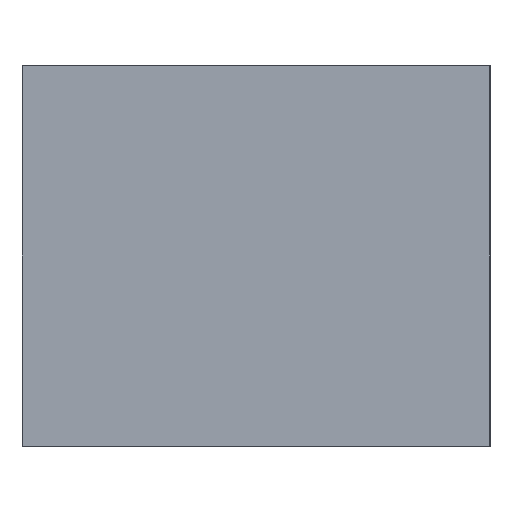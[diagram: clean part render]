
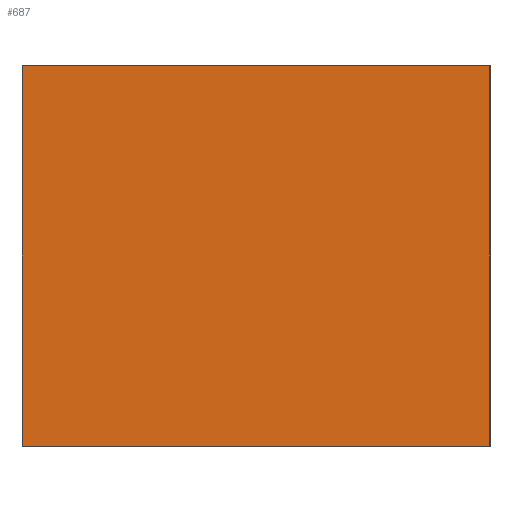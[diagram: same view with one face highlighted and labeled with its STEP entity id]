
A CAD part, left-side view. The second image highlights one B-rep face of the part: STEP entity #687.
In plain terms, the highlighted planar face has unit normal (-1, 0, 0).
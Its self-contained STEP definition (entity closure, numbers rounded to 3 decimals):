
#17=DIRECTION('',(0.,0.,1.));
#18=VECTOR('',#17,35.);
#19=CARTESIAN_POINT('',(-43.5,0.,-17.5));
#20=LINE('',#19,#18);
#134=DIRECTION('',(0.,1.,0.));
#135=VECTOR('',#134,43.);
#136=CARTESIAN_POINT('',(-43.5,0.,17.5));
#137=LINE('',#136,#135);
#138=DIRECTION('',(0.,1.,0.));
#139=VECTOR('',#138,43.);
#140=CARTESIAN_POINT('',(-43.5,0.,-17.5));
#141=LINE('',#140,#139);
#210=DIRECTION('',(0.,0.,1.));
#211=VECTOR('',#210,35.);
#212=CARTESIAN_POINT('',(-43.5,43.,-17.5));
#213=LINE('',#212,#211);
#393=CARTESIAN_POINT('',(-43.5,0.,-17.5));
#394=VERTEX_POINT('',#393);
#395=CARTESIAN_POINT('',(-43.5,0.,17.5));
#396=VERTEX_POINT('',#395);
#401=CARTESIAN_POINT('',(-43.5,43.,-17.5));
#402=VERTEX_POINT('',#401);
#403=CARTESIAN_POINT('',(-43.5,43.,17.5));
#404=VERTEX_POINT('',#403);
#674=CARTESIAN_POINT('',(-43.5,0.,-17.5));
#675=DIRECTION('',(-1.,0.,0.));
#676=DIRECTION('',(0.,0.,1.));
#677=AXIS2_PLACEMENT_3D('',#674,#675,#676);
#678=PLANE('',#677);
#679=ORIENTED_EDGE('',*,*,#514,.F.);
#681=ORIENTED_EDGE('',*,*,#680,.T.);
#683=ORIENTED_EDGE('',*,*,#682,.T.);
#684=ORIENTED_EDGE('',*,*,#667,.F.);
#685=EDGE_LOOP('',(#679,#681,#683,#684));
#686=FACE_OUTER_BOUND('',#685,.F.);
#687=ADVANCED_FACE('',(#686),#678,.T.);
#514=EDGE_CURVE('',#394,#396,#20,.T.);
#667=EDGE_CURVE('',#396,#404,#137,.T.);
#680=EDGE_CURVE('',#394,#402,#141,.T.);
#682=EDGE_CURVE('',#402,#404,#213,.T.);
